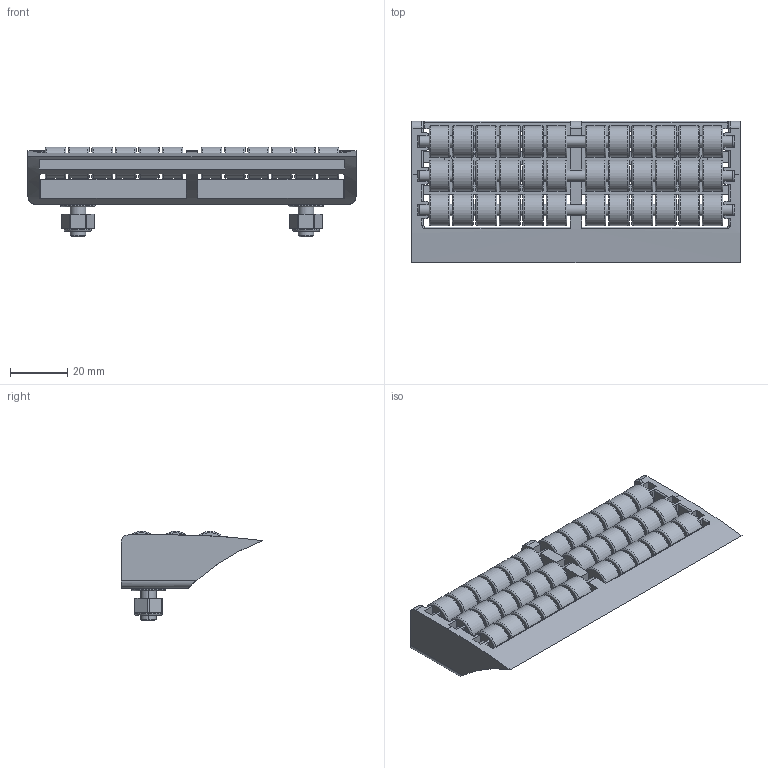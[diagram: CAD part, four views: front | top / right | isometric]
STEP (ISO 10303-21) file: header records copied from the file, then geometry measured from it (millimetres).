
FILE_DESCRIPTION(('CATIA V5 STEP Exchange'),'2;1');
FILE_NAME('C:\Users\ALI OZGUN\Desktop\alhan\AKTARMA_MODULAR\800167071.stp','2017-11-06T11:40:58+00:00',('none'),('none'),'CATIA Version 5 Release 21 GA (IN-10)','CATIA V5 STEP AP203','none');
FILE_SCHEMA(('CONFIG_CONTROL_DESIGN'));
Length unit declared in the file: millimetre
Products named in the file (1): 800167071
Bounding box: 115 x 49.6 x 31.5 mm (x, y, z)
Volume: 56664 mm3; surface area: 41466.4 mm2
Topology: 46 solids, 46 shells, 652 faces, 1483 edges, 924 vertices
Faces by surface type: cylinder 253, plane 215, torus 166, cone 16, bspline 2
Entity records: 16942 total; most frequent: CARTESIAN_POINT 3127, ORIENTED_EDGE 2966, DIRECTION 2326, EDGE_CURVE 1483, AXIS2_PLACEMENT_3D 1271, VERTEX_POINT 924, CIRCLE 831, EDGE_LOOP 757
